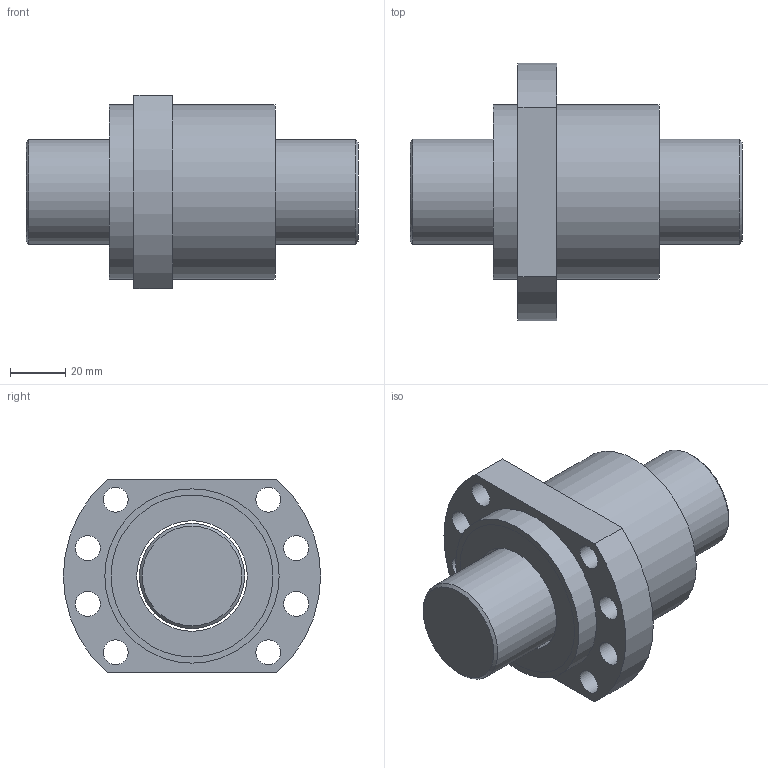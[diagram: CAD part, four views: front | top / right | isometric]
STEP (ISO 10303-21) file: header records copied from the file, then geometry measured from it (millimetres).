
FILE_DESCRIPTION(/* description */ (''),/* implementation_level */ '2;1');
FILE_NAME(/* name */ 'SFH4010-3.8.stp',/* time_stamp */ '2014-10-15T11:53:15+08:00',/* author */ (''),/* organization */ (''),/* preprocessor_version */ 'ST-DEVELOPER v11',/* originating_system */ 'SIEMENS UGS NX 6.0',/* authorisation */ '');
FILE_SCHEMA (('CONFIG_CONTROL_DESIGN'));
Length unit declared in the file: millimetre
Products named in the file (1): fannB1F9gm97
Bounding box: 120 x 93 x 70 mm (x, y, z)
Volume: 278439.5 mm3; surface area: 60232.8 mm2
Topology: 4 solids, 4 shells, 52 faces, 96 edges, 64 vertices
Faces by surface type: cylinder 28, plane 22, cone 2
Full cylindrical faces by diameter (mm): 9 x8, 38 x1, 40 x3, 55 x4, 58.5 x4, 60 x4, 63 x2
Entity records: 1284 total; most frequent: DIRECTION 230, CARTESIAN_POINT 181, ORIENTED_EDGE 132, EDGE_LOOP 114, AXIS2_PLACEMENT_3D 111, FACE_BOUND 108, EDGE_CURVE 66, VERTEX_POINT 62
